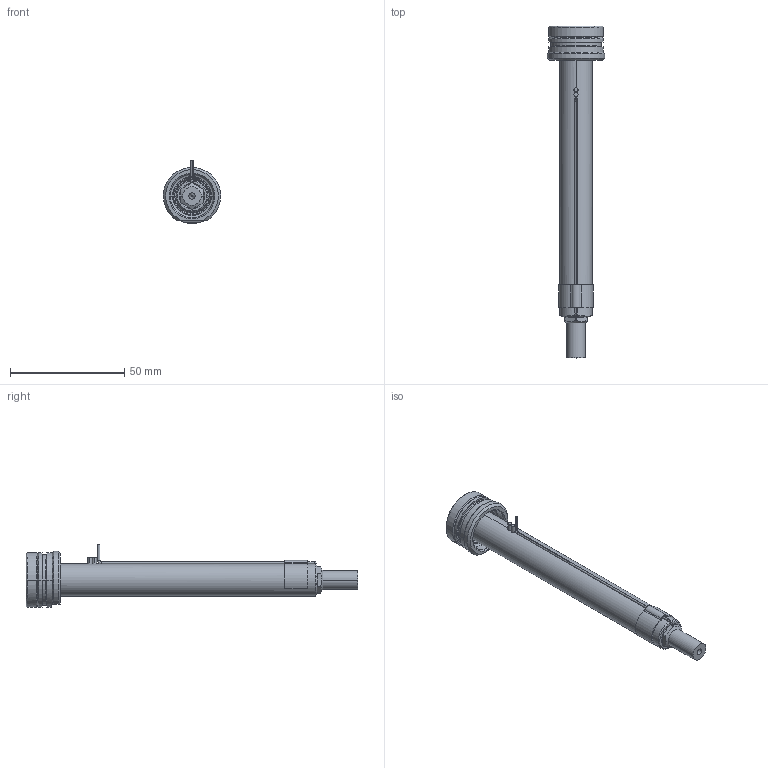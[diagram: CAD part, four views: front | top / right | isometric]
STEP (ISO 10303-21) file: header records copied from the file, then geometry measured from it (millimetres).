
FILE_DESCRIPTION((''),'2;1');
FILE_NAME('EO04_PG-FBE_WR_120_SW','2024-02-19T11:48:27',('sundharh'),(''),'CREO PARAMETRIC BY PTC INC, 2023154','CREO PARAMETRIC BY PTC INC, 2023154','');
FILE_SCHEMA(('CONFIG_CONTROL_DESIGN'));
Length unit declared in the file: millimetre
Products named in the file (1): EO04_PG-FBE_WR_120_SW
Bounding box: 24.99 x 145 x 27.5 mm (x, y, z)
Volume: 22772.2 mm3; surface area: 11389.6 mm2
Topology: 2 solids, 2 shells, 225 faces, 603 edges, 368 vertices
Faces by surface type: cylinder 84, plane 59, cone 46, torus 22, bspline 11, sphere 3
Entity records: 8355 total; most frequent: CARTESIAN_POINT 2684, DIRECTION 1233, ORIENTED_EDGE 1190, EDGE_CURVE 595, AXIS2_PLACEMENT_3D 517, VERTEX_POINT 368, CIRCLE 303, EDGE_LOOP 241
